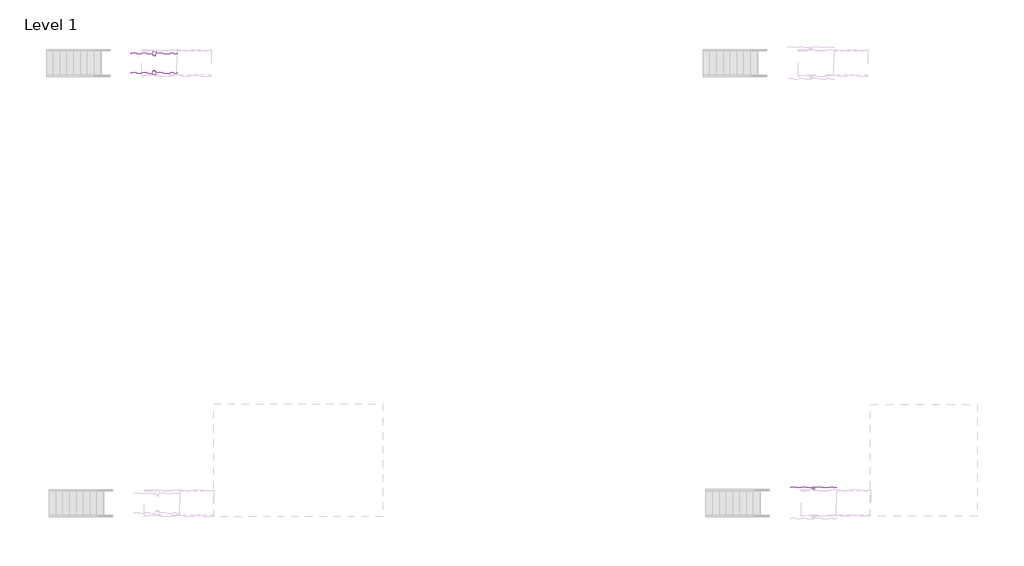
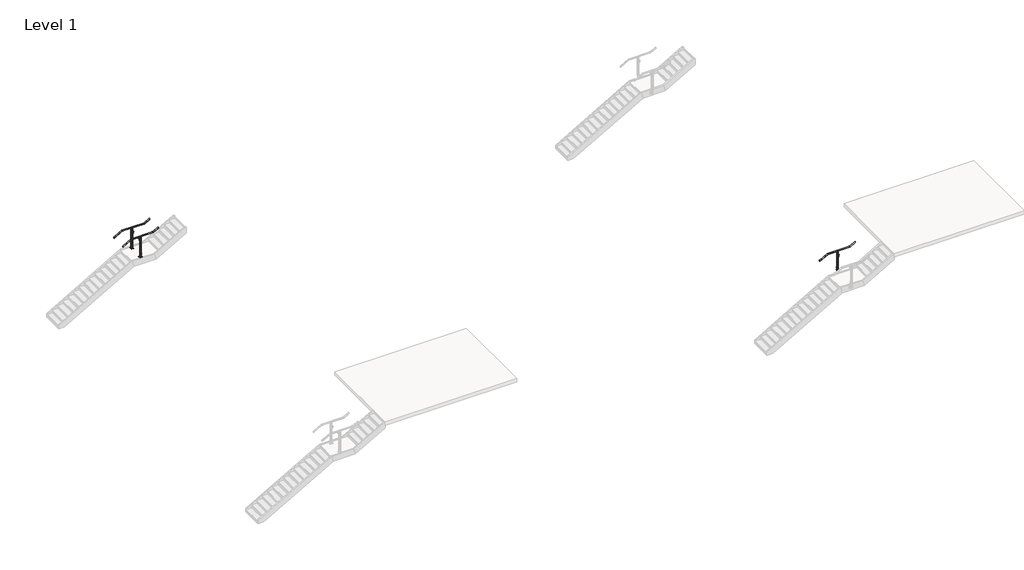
# One storey, part 33 of 36: 3 railings.
"""IFC4 building model written with IfcOpenShell, lengths in millimetres."""

from ifc_helpers import new_model, si_unit, point, frame, frame_2d, origin, place, context, project, spatial, polyline, circle_curve, ellipse_curve, trimmed, segment, composite_curve, outline, extrude, element, save
from ifc_brep_helpers import plane_surface, cylinder_surface, revolved_surface, advanced_brep

model = new_model("IFC4")

# Units and contexts
model_context = context("Model", 3, world=origin())
ifc_project = project(units=[si_unit("LENGTHUNIT", "METRE", prefix="MILLI")], contexts=[model_context])

# Site, building, storey
site = spatial("IfcSite", under=ifc_project)
building = spatial("IfcBuilding", under=site)
storey = spatial("IfcBuildingStorey", under=building, Name="Level 1", Elevation=0.0)

# Railings
placement = place(None, origin())
element("IfcRailing", 1, ObjectType="VIVA-BLADE-CableNet Infill-Panel-Floor Mounted-Stairs-Landing", at=placement, inside=storey, context=model_context, shape_type="SolidModel", body=[
    advanced_brep(
    [(136471.1523809, 32377.4530185, 3009.6740933), (136471.1523809, 32428.2530185, 3009.6740933), (136858.8977176, 32377.4530185, 3231.2428571), (136858.8977176, 32428.2530185, 3231.2428571), (137925.6977176, 32377.4530185, 3231.2428571), (137925.6977176, 32428.2530185, 3231.2428571), (138176.1273809, 32377.4530185, 3374.3455219), (138176.1273809, 32428.2530185, 3374.3455219)],
    [
        (0, 1, ellipse_curve(frame((136471.1523809, 32402.8530185, 3009.6740933), z_axis=(-1.0, 0.0, 0.0), x_axis=(0.0, 0.0, -0.9999999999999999)), 29.2544781, 25.4)),
        (1, 0, ellipse_curve(frame((136471.1523809, 32402.8530185, 3009.6740933), z_axis=(-1.0, 0.0, 0.0), x_axis=(0.0, 0.0, -0.9999999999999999)), 29.2544781, 25.4)),
        (0, 2),
        (2, 3, ellipse_curve(frame((136858.8977176, 32402.8530185, 3231.2428571), z_axis=(-0.9664996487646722, 0.0, -0.2566679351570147), x_axis=(0.25666793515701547, 0.0, -0.9664996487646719)), 26.2804027, 25.4)),
        (3, 1),
        (3, 2, ellipse_curve(frame((136858.8977176, 32402.8530185, 3231.2428571), z_axis=(-0.9664996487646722, 0.0, -0.2566679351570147), x_axis=(0.25666793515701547, 0.0, -0.9664996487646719)), 26.2804027, 25.4)),
        (2, 4),
        (4, 5, ellipse_curve(frame((137925.6977176, 32402.8530185, 3231.2428571), z_axis=(-0.9664996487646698, 0.0, -0.2566679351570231), x_axis=(-0.2566679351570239, 0.0, 0.9664996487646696)), 26.2804027, 25.4)),
        (5, 3),
        (5, 4, ellipse_curve(frame((137925.6977176, 32402.8530185, 3231.2428571), z_axis=(-0.9664996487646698, 0.0, -0.2566679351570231), x_axis=(-0.2566679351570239, 0.0, 0.9664996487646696)), 26.2804027, 25.4)),
        (6, 7, ellipse_curve(frame((138176.1273809, 32402.8530185, 3374.3455219), z_axis=(1.0, 0.0, 0.0), x_axis=(0.0, 0.0, -1.0)), 29.2544781, 25.4)),
        (7, 6, ellipse_curve(frame((138176.1273809, 32402.8530185, 3374.3455219), z_axis=(1.0, 0.0, 0.0), x_axis=(0.0, 0.0, -1.0)), 29.2544781, 25.4)),
        (4, 6),
        (7, 5),
    ],
    [
        plane_surface(frame((136471.1523809, 32402.8530185, 3038.9285714), z_axis=(-1.0, 0.0, 0.0), x_axis=(0.0, 1.0, 0.0))),
        cylinder_surface(frame((136483.7543099, 32402.8530185, 3016.8751956), z_axis=(-0.868243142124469, 0.0, -0.49613893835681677), x_axis=(0.0, 1.0, 0.0)), 25.4),
        cylinder_surface(frame((136852.1523809, 32402.8530185, 3231.2428571), z_axis=(-1.0, 0.0, 0.0), x_axis=(0.0, 1.0, 0.0)), 25.4),
        plane_surface(frame((138176.1273809, 32402.8530185, 3403.6), z_axis=(1.0, 0.0, 0.0), x_axis=(0.0, 1.0, 0.0))),
        cylinder_surface(frame((137931.5543099, 32402.8530185, 3234.5894813), z_axis=(-0.8682431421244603, 0.0, -0.4961389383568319), x_axis=(0.0, 1.0, 0.0)), 25.4),
    ],
    [
        (0, [[1, 2]]),
        (1, [[-1, 3, 4, 5]]),
        (1, [[-2, -5, 6, -3]]),
        (2, [[-4, 7, 8, 9]]),
        (2, [[-6, -9, 10, -7]]),
        (3, [[11, 12]]),
        (4, [[-8, 13, -12, 14]]),
        (4, [[-10, -14, -11, -13]]),
    ],
),
    extrude(outline(composite_curve([segment(trimmed(circle_curve(frame_2d((0.0, 7.0)), 7.0), [point((0.0, 14.0))], [point((0.0, 0.0))], False, "CARTESIAN"), True, "CONTINUOUS"), segment(trimmed(circle_curve(frame_2d((0.0, 7.0)), 7.0), [point((0.0, 0.0))], [point((0.0, 14.0))], False, "CARTESIAN"), True, "CONTINUOUS")], self_intersect=False)), frame((137323.5556311, 32488.5366409, 2975.6229503), z_axis=(0.0012555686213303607, 0.0, 0.999999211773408), x_axis=(0.999999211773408, 0.0, -0.0012555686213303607)), (0.0, 0.0, 1.0), 75.97),
    extrude(outline(composite_curve([segment(trimmed(circle_curve(frame_2d((32496.784573, 3073.569086)), 19.05), [point((32483.2549847, 3060.1581672))], [point((32510.3141612, 3060.1581672))], True, "CARTESIAN"), True, "CONTINUOUS"), segment(polyline([(32510.3141612, 3060.1581672), (32511.3405508, 3059.1407802)]), True, "CONTINUOUS"), segment(trimmed(circle_curve(frame_2d((32510.284573, 3058.0754583)), 1.5), [point((32511.3405508, 3059.1407802))], [point((32511.2699744, 3056.9445366))], False, "CARTESIAN"), True, "CONTINUOUS"), segment(trimmed(circle_curve(frame_2d((32496.784573, 3073.569086)), 22.05), [point((32511.2699744, 3056.9445366))], [point((32482.2991715, 3056.9445366))], False, "CARTESIAN"), True, "CONTINUOUS"), segment(trimmed(circle_curve(frame_2d((32483.284573, 3058.0754583)), 1.5), [point((32482.2991715, 3056.9445366))], [point((32482.2285951, 3059.1407802))], False, "CARTESIAN"), True, "CONTINUOUS"), segment(polyline([(32482.2285951, 3059.1407802), (32483.2549847, 3060.1581672)]), True, "CONTINUOUS")], self_intersect=False)), frame((137287.2042463, 0.0, 0.0), z_axis=(1.0, 0.0, 0.0), x_axis=(0.0, 1.0, 0.0)), (0.0, 0.0, 1.0), 74.5229187),
    extrude(outline(composite_curve([segment(trimmed(circle_curve(frame_2d((3002.4995463, 137323.6155346)), 12.5), [point((3002.4995463, 137311.1155346))], [point((3002.4995463, 137336.1155346))], False, "CARTESIAN"), True, "CONTINUOUS"), segment(trimmed(circle_curve(frame_2d((3002.4995463, 137323.6155346)), 12.5), [point((3002.4995463, 137336.1155346))], [point((3002.4995463, 137311.1155346))], False, "CARTESIAN"), True, "CONTINUOUS")], self_intersect=False)), frame((0.0, 32428.2528152, 0.0), z_axis=(0.0, 1.0, 0.0), x_axis=(0.0, 0.0, 1.0)), (0.0, 0.0, 1.0), 82.061346),
    extrude(outline(polyline([(137350.7147166, 32434.6028152), (137350.7147166, 32428.2528152), (137296.5873166, 32428.2528152), (137296.5873166, 32434.6028152), (137350.7147166, 32434.6028152)])), frame((0.0, 0.0, 2975.5558249), z_axis=(0.0, 0.0, 1.0), x_axis=(1.0, 0.0, 0.0)), (0.0, 0.0, 1.0), 54.1734375),
    advanced_brep(
    [(137368.8772809, 32415.6131421, 3209.2396226), (137368.8772809, 32390.7410776, 3209.0963856), (137368.8772809, 32387.9321473, 3204.2696317), (137368.8772809, 32419.4490396, 3204.8503901), (137278.4024809, 32415.6131421, 3209.2396226), (137278.4024809, 32419.4490396, 3204.8503901), (137278.4024809, 32387.8183539, 3204.3322535), (137278.4024809, 32390.6541055, 3209.1447018)],
    [
        (0, 1, circle_curve(frame((137368.8772809, 32403.0493392, 3231.3544469), z_axis=(-1.0, 0.0, 0.0), x_axis=(0.0, 1.0, 0.0)), 25.4345159)),
        (1, 2, circle_curve(frame((137368.8772809, 32389.4094524, 3206.642217), z_axis=(1.0, 0.0, 0.0), x_axis=(0.0, 1.0, 0.0)), 2.7949225)),
        (2, 3, circle_curve(frame((137368.8772809, 32403.1828023, 3232.1170736), z_axis=(1.0, 0.0, 0.0), x_axis=(0.0, 1.0, 0.0)), 31.75)),
        (3, 0, circle_curve(frame((137368.8772809, 32417.1606998, 3206.7213092), z_axis=(1.0, 0.0, 0.0), x_axis=(0.0, 1.0, 0.0)), 2.9558141)),
        (4, 5, circle_curve(frame((137278.4024809, 32417.1606998, 3206.7213092), z_axis=(-1.0, 0.0, 0.0), x_axis=(0.0, 1.0, 0.0)), 2.9558141)),
        (5, 6, circle_curve(frame((137278.4024809, 32403.1828023, 3232.1170736), z_axis=(-1.0, 0.0, 0.0), x_axis=(0.0, 1.0, 0.0)), 31.75)),
        (6, 7, circle_curve(frame((137278.4024809, 32389.4094524, 3206.642217), z_axis=(-1.0, 0.0, 0.0), x_axis=(0.0, 1.0, 0.0)), 2.7949225)),
        (7, 4, circle_curve(frame((137278.4024809, 32403.0493392, 3231.3544469), z_axis=(1.0, 0.0, 0.0), x_axis=(0.0, 1.0, 0.0)), 25.4345159)),
        (0, 4),
        (7, 1),
        (6, 2),
        (5, 3),
    ],
    [
        plane_surface(frame((137368.8772809, 32428.4838551, 3231.3544469), z_axis=(1.0, 0.0, 0.0), x_axis=(0.0, 0.0, -1.0))),
        plane_surface(frame((137278.4024809, 32428.4838551, 3231.3544469), z_axis=(-1.0, 0.0, 0.0), x_axis=(0.0, 0.0, 1.0))),
        revolved_surface(polyline([(137278.4024809, 32428.4838551, 3231.3544469), (137368.8772809, 32428.4838551, 3231.3544469)]), (137278.4024809, 32403.0493392, 3231.3544469), (-1.0, 0.0, 0.0)),
        cylinder_surface(frame((137278.4024809, 32389.4094524, 3206.642217), z_axis=(1.0, 0.0, 0.0), x_axis=(0.0, 1.0, 0.0)), 2.7949225),
        cylinder_surface(frame((137278.4024809, 32403.1828023, 3232.1170736), z_axis=(1.0, 0.0, 0.0), x_axis=(0.0, 1.0, 0.0)), 31.75),
        cylinder_surface(frame((137278.4024809, 32417.1606998, 3206.7213092), z_axis=(1.0, 0.0, 0.0), x_axis=(0.0, 1.0, 0.0)), 2.9558141),
    ],
    [
        (0, [[1, 2, 3, 4]]),
        (1, [[5, 6, 7, 8]]),
        (2, [[-1, 9, -8, 10]]),
        (3, [[-2, -10, -7, 11]]),
        (4, [[-3, -11, -6, 12]]),
        (5, [[-4, -12, -5, -9]]),
    ],
),
    advanced_brep(
    [(137336.3398809, 32405.3930185, 3191.5553571), (137310.9398809, 32405.3930185, 3191.5553571), (137296.571966, 32405.3930185, 3205.923272), (137350.7077958, 32405.3930185, 3205.923272), (137336.3398809, 32400.3130185, 3191.5553571), (137350.7077958, 32400.3130185, 3205.923272), (137296.571966, 32400.3130185, 3205.923272), (137310.9398809, 32400.3130185, 3191.5553571)],
    [
        (0, 1),
        (1, 2, circle_curve(frame((137296.571966, 32405.3930185, 3191.5553571), z_axis=(0.0, -1.0, 0.0), x_axis=(-1.0, 0.0, 0.0)), 14.3679149)),
        (2, 3),
        (3, 0, circle_curve(frame((137350.7077958, 32405.3930185, 3191.5553571), z_axis=(0.0, -1.0, 0.0), x_axis=(-1.0, 0.0, 0.0)), 14.3679149)),
        (4, 5, circle_curve(frame((137350.7077958, 32400.3130185, 3191.5553571), z_axis=(0.0, 1.0, 0.0), x_axis=(-1.0, 0.0, 0.0)), 14.3679149)),
        (5, 6),
        (6, 7, circle_curve(frame((137296.571966, 32400.3130185, 3191.5553571), z_axis=(0.0, 1.0, 0.0), x_axis=(-1.0, 0.0, 0.0)), 14.3679149)),
        (7, 4),
        (0, 4),
        (7, 1),
        (6, 2),
        (5, 3),
    ],
    [
        plane_surface(frame((137310.9398809, 32405.3930185, 3191.5553571), z_axis=(0.0, 1.0, 0.0), x_axis=(-1.0, 0.0, 0.0))),
        plane_surface(frame((137310.9398809, 32400.3130185, 3191.5553571), z_axis=(0.0, -1.0, 0.0), x_axis=(1.0, 0.0, 0.0))),
        plane_surface(frame((137336.3398809, 32405.3930185, 3191.5553571), z_axis=(0.0, 0.0, -1.0), x_axis=(0.0, -1.0, 0.0))),
        revolved_surface(polyline([(137282.20405109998, 32400.3130185, 3191.5553571), (137282.20405109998, 32405.3930185, 3191.5553571)]), (137296.571966, 32400.3130185, 3191.5553571), (0.0, -1.0, 0.0)),
        plane_surface(frame((137296.571966, 32405.3930185, 3205.923272), z_axis=(0.0, 0.0, 1.0), x_axis=(0.0, -1.0, 0.0))),
        revolved_surface(polyline([(137336.3398809, 32400.3130185, 3191.5553571), (137336.3398809, 32405.3930185, 3191.5553571)]), (137350.7077958, 32400.3130185, 3191.5553571), (0.0, -1.0, 0.0)),
    ],
    [
        (0, [[1, 2, 3, 4]]),
        (1, [[5, 6, 7, 8]]),
        (2, [[-1, 9, -8, 10]]),
        (3, [[-2, -10, -7, 11]]),
        (4, [[-3, -11, -6, 12]]),
        (5, [[-4, -12, -5, -9]]),
    ],
),
    extrude(outline(polyline([(137387.1279441, 32332.4823328), (137260.1279441, 32332.4823328), (137260.1279441, 32466.3518244), (137387.1279441, 32466.3518244), (137387.1279441, 32332.4823328)]), holes=[composite_curve([segment(trimmed(circle_curve(frame_2d((137279.1779441, 32358.4042126)), 4.7625), [point((137279.1779441, 32353.6417126))], [point((137279.1779441, 32363.1667126))], True, "CARTESIAN"), True, "CONTINUOUS"), segment(trimmed(circle_curve(frame_2d((137279.1779441, 32358.4042126)), 4.7625), [point((137279.1779441, 32363.1667126))], [point((137279.1779441, 32353.6417126))], True, "CARTESIAN"), True, "CONTINUOUS")], self_intersect=False), composite_curve([segment(trimmed(circle_curve(frame_2d((137279.1779441, 32447.3018244)), 4.7625), [point((137279.1779441, 32442.5393244))], [point((137279.1779441, 32452.0643244))], True, "CARTESIAN"), True, "CONTINUOUS"), segment(trimmed(circle_curve(frame_2d((137279.1779441, 32447.3018244)), 4.7625), [point((137279.1779441, 32452.0643244))], [point((137279.1779441, 32442.5393244))], True, "CARTESIAN"), True, "CONTINUOUS")], self_intersect=False), composite_curve([segment(trimmed(circle_curve(frame_2d((137368.0779441, 32447.3018244)), 4.7625), [point((137368.0779441, 32442.5393244))], [point((137368.0779441, 32452.0643244))], True, "CARTESIAN"), True, "CONTINUOUS"), segment(trimmed(circle_curve(frame_2d((137368.0779441, 32447.3018244)), 4.7625), [point((137368.0779441, 32452.0643244))], [point((137368.0779441, 32442.5393244))], True, "CARTESIAN"), True, "CONTINUOUS")], self_intersect=False), composite_curve([segment(trimmed(circle_curve(frame_2d((137368.0779441, 32358.4042126)), 4.7625), [point((137368.0779441, 32353.6417126))], [point((137368.0779441, 32363.1667126))], True, "CARTESIAN"), True, "CONTINUOUS"), segment(trimmed(circle_curve(frame_2d((137368.0779441, 32358.4042126)), 4.7625), [point((137368.0779441, 32363.1667126))], [point((137368.0779441, 32353.6417126))], True, "CARTESIAN"), True, "CONTINUOUS")], self_intersect=False)]), frame((0.0, 0.0, 2177.1428571), z_axis=(0.0, 0.0, 1.0), x_axis=(1.0, 0.0, 0.0)), (0.0, 0.0, 1.0), 9.525),
    extrude(outline(polyline([(137296.5650452, 32428.2528152), (137304.5898809, 32428.2528152), (137304.5898809, 32377.4504906), (137296.5650452, 32377.4504906), (137296.5650452, 32428.2528152)])), frame((0.0, 0.0, 2237.6440557), z_axis=(0.0, 0.0, 1.0), x_axis=(1.0, 0.0, 0.0)), (0.0, 0.0, 1.0), 936.4488015),
    extrude(outline(polyline([(137331.5688822, 32428.2524163), (137331.5688822, 32377.452424), (137315.6328917, 32377.452424), (137315.6328917, 32428.2524163), (137331.5688822, 32428.2524163)])), frame((0.0, 0.0, 2186.6678571), z_axis=(0.0, 0.0, 1.0), x_axis=(1.0, 0.0, 0.0)), (0.0, 0.0, 1.0), 231.775),
    extrude(outline(composite_curve([segment(trimmed(circle_curve(frame_2d((32390.1505416, 3163.1845501)), 8.89), [point((32381.2605416, 3163.1845501))], [point((32399.0405416, 3163.1845501))], False, "CARTESIAN"), True, "CONTINUOUS"), segment(trimmed(circle_curve(frame_2d((32390.1505416, 3163.1845501)), 8.89), [point((32399.0405416, 3163.1845501))], [point((32381.2605416, 3163.1845501))], False, "CARTESIAN"), True, "CONTINUOUS")], self_intersect=False)), frame((137291.8898809, 0.0, 0.0), z_axis=(1.0, 0.0, 0.0), x_axis=(0.0, 1.0, 0.0)), (0.0, 0.0, 1.0), 63.4880631),
    extrude(outline(composite_curve([segment(trimmed(circle_curve(frame_2d((32415.5504395, 3163.1845501)), 8.89), [point((32406.6604395, 3163.1845501))], [point((32424.4404395, 3163.1845501))], False, "CARTESIAN"), True, "CONTINUOUS"), segment(trimmed(circle_curve(frame_2d((32415.5504395, 3163.1845501)), 8.89), [point((32424.4404395, 3163.1845501))], [point((32406.6604395, 3163.1845501))], False, "CARTESIAN"), True, "CONTINUOUS")], self_intersect=False)), frame((137291.8898809, 0.0, 0.0), z_axis=(1.0, 0.0, 0.0), x_axis=(0.0, 1.0, 0.0)), (0.0, 0.0, 1.0), 63.4880631),
    extrude(outline(polyline([(3151.8551571, 137304.5898809), (3151.8551571, 137342.6898809), (3185.2053571, 137342.6898809), (3191.5553571, 137336.3398809), (3191.5553571, 137310.9398809), (3185.2053571, 137304.5898809), (3151.8551571, 137304.5898809)])), frame((0.0, 32377.4504906, 0.0), z_axis=(0.0, 1.0, 0.0), x_axis=(0.0, 0.0, 1.0)), (0.0, 0.0, 1.0), 50.8025279),
    extrude(outline(composite_curve([segment(trimmed(circle_curve(frame_2d((32402.8532242, 2385.1476493)), 19.05), [point((32383.8032242, 2385.1476493))], [point((32421.9032242, 2385.1476493))], False, "CARTESIAN"), True, "CONTINUOUS"), segment(trimmed(circle_curve(frame_2d((32402.8532242, 2385.1476493)), 19.05), [point((32421.9032242, 2385.1476493))], [point((32383.8032242, 2385.1476493))], False, "CARTESIAN"), True, "CONTINUOUS")], self_intersect=False)), frame((137287.1908809, 0.0, 0.0), z_axis=(1.0, 0.0, 0.0), x_axis=(0.0, 1.0, 0.0)), (0.0, 0.0, 1.0), 72.8981531),
    extrude(outline(composite_curve([segment(trimmed(circle_curve(frame_2d((32402.8532242, 2296.2476493)), 19.05), [point((32383.8032242, 2296.2476493))], [point((32421.9032242, 2296.2476493))], False, "CARTESIAN"), True, "CONTINUOUS"), segment(trimmed(circle_curve(frame_2d((32402.8532242, 2296.2476493)), 19.05), [point((32421.9032242, 2296.2476493))], [point((32383.8032242, 2296.2476493))], False, "CARTESIAN"), True, "CONTINUOUS")], self_intersect=False)), frame((137287.1908809, 0.0, 0.0), z_axis=(1.0, 0.0, 0.0), x_axis=(0.0, 1.0, 0.0)), (0.0, 0.0, 1.0), 72.8981531),
    extrude(outline(polyline([(137342.6898429, 32428.2528152), (137350.6908429, 32428.2528152), (137350.6908429, 32377.4504906), (137342.6898429, 32377.4504906), (137342.6898429, 32428.2528152)])), frame((0.0, 0.0, 2237.6440557), z_axis=(0.0, 0.0, 1.0), x_axis=(1.0, 0.0, 0.0)), (0.0, 0.0, 1.0), 936.4488015),
])
element("IfcRailing", 2, ObjectType="VIVA-BLADE-CableNet Infill-Panel-Floor Mounted-Stairs-Landing", at=placement, inside=storey, context=model_context, shape_type="SolidModel", body=[
    advanced_brep(
    [(136471.1523809, 33114.0530185, 3009.6740933), (136471.1523809, 33164.8530185, 3009.6740933), (136858.8977176, 33114.0530185, 3231.2428571), (136858.8977176, 33164.8530185, 3231.2428571), (137925.6977176, 33114.0530185, 3231.2428571), (137925.6977176, 33164.8530185, 3231.2428571), (138176.1273809, 33114.0530185, 3374.3455219), (138176.1273809, 33164.8530185, 3374.3455219)],
    [
        (0, 1, ellipse_curve(frame((136471.1523809, 33139.4530185, 3009.6740933), z_axis=(-1.0, 0.0, 0.0), x_axis=(0.0, 0.0, -0.9999999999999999)), 29.2544781, 25.4)),
        (1, 0, ellipse_curve(frame((136471.1523809, 33139.4530185, 3009.6740933), z_axis=(-1.0, 0.0, 0.0), x_axis=(0.0, 0.0, -0.9999999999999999)), 29.2544781, 25.4)),
        (0, 2),
        (2, 3, ellipse_curve(frame((136858.8977176, 33139.4530185, 3231.2428571), z_axis=(-0.9664996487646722, 0.0, -0.2566679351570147), x_axis=(0.25666793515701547, 0.0, -0.9664996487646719)), 26.2804027, 25.4)),
        (3, 1),
        (3, 2, ellipse_curve(frame((136858.8977176, 33139.4530185, 3231.2428571), z_axis=(-0.9664996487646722, 0.0, -0.2566679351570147), x_axis=(0.25666793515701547, 0.0, -0.9664996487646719)), 26.2804027, 25.4)),
        (2, 4),
        (4, 5, ellipse_curve(frame((137925.6977176, 33139.4530185, 3231.2428571), z_axis=(-0.9664996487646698, 0.0, -0.2566679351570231), x_axis=(-0.2566679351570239, 0.0, 0.9664996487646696)), 26.2804027, 25.4)),
        (5, 3),
        (5, 4, ellipse_curve(frame((137925.6977176, 33139.4530185, 3231.2428571), z_axis=(-0.9664996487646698, 0.0, -0.2566679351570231), x_axis=(-0.2566679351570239, 0.0, 0.9664996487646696)), 26.2804027, 25.4)),
        (6, 7, ellipse_curve(frame((138176.1273809, 33139.4530185, 3374.3455219), z_axis=(1.0, 0.0, 0.0), x_axis=(0.0, 0.0, -1.0)), 29.2544781, 25.4)),
        (7, 6, ellipse_curve(frame((138176.1273809, 33139.4530185, 3374.3455219), z_axis=(1.0, 0.0, 0.0), x_axis=(0.0, 0.0, -1.0)), 29.2544781, 25.4)),
        (4, 6),
        (7, 5),
    ],
    [
        plane_surface(frame((136471.1523809, 33139.4530185, 3038.9285714), z_axis=(-1.0, 0.0, 0.0), x_axis=(0.0, 1.0, 0.0))),
        cylinder_surface(frame((136483.7543099, 33139.4530185, 3016.8751956), z_axis=(-0.868243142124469, 0.0, -0.49613893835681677), x_axis=(0.0, 1.0, 0.0)), 25.4),
        cylinder_surface(frame((136852.1523809, 33139.4530185, 3231.2428571), z_axis=(-1.0, 0.0, 0.0), x_axis=(0.0, 1.0, 0.0)), 25.4),
        plane_surface(frame((138176.1273809, 33139.4530185, 3403.6), z_axis=(1.0, 0.0, 0.0), x_axis=(0.0, 1.0, 0.0))),
        cylinder_surface(frame((137931.5543099, 33139.4530185, 3234.5894813), z_axis=(-0.8682431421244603, 0.0, -0.4961389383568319), x_axis=(0.0, 1.0, 0.0)), 25.4),
    ],
    [
        (0, [[1, 2]]),
        (1, [[-1, 3, 4, 5]]),
        (1, [[-2, -5, 6, -3]]),
        (2, [[-4, 7, 8, 9]]),
        (2, [[-6, -9, 10, -7]]),
        (3, [[11, 12]]),
        (4, [[-8, 13, -12, 14]]),
        (4, [[-10, -14, -11, -13]]),
    ],
),
    extrude(outline(composite_curve([segment(trimmed(circle_curve(frame_2d((0.0, -7.0)), 7.0), [point((0.0, -14.0))], [point((0.0, 0.0))], False, "CARTESIAN"), True, "CONTINUOUS"), segment(trimmed(circle_curve(frame_2d((0.0, -7.0)), 7.0), [point((0.0, 0.0))], [point((0.0, -14.0))], False, "CARTESIAN"), True, "CONTINUOUS")], self_intersect=False)), frame((137323.5556311, 33053.7693961, 2975.6229503), z_axis=(0.0012555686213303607, 0.0, 0.999999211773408), x_axis=(0.999999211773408, 0.0, -0.0012555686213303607)), (0.0, 0.0, 1.0), 75.97),
    extrude(outline(composite_curve([segment(polyline([(33059.0510523, 3060.1581672), (33060.0774419, 3059.1407802)]), True, "CONTINUOUS"), segment(trimmed(circle_curve(frame_2d((33059.021464, 3058.0754583)), 1.5), [point((33060.0774419, 3059.1407802))], [point((33060.0068655, 3056.9445366))], False, "CARTESIAN"), True, "CONTINUOUS"), segment(trimmed(circle_curve(frame_2d((33045.521464, 3073.569086)), 22.05), [point((33060.0068655, 3056.9445366))], [point((33031.0360626, 3056.9445366))], False, "CARTESIAN"), True, "CONTINUOUS"), segment(trimmed(circle_curve(frame_2d((33032.021464, 3058.0754583)), 1.5), [point((33031.0360626, 3056.9445366))], [point((33030.9654862, 3059.1407802))], False, "CARTESIAN"), True, "CONTINUOUS"), segment(polyline([(33030.9654862, 3059.1407802), (33031.9918758, 3060.1581672)]), True, "CONTINUOUS"), segment(trimmed(circle_curve(frame_2d((33045.521464, 3073.569086)), 19.05), [point((33031.9918758, 3060.1581672))], [point((33059.0510523, 3060.1581672))], True, "CARTESIAN"), True, "CONTINUOUS")], self_intersect=False)), frame((137287.2042463, 0.0, 0.0), z_axis=(1.0, 0.0, 0.0), x_axis=(0.0, 1.0, 0.0)), (0.0, 0.0, 1.0), 74.5229187),
    extrude(outline(composite_curve([segment(trimmed(circle_curve(frame_2d((3002.4995463, 137323.6155346)), 12.5), [point((3002.4995463, 137311.1155346))], [point((3002.4995463, 137336.1155346))], False, "CARTESIAN"), True, "CONTINUOUS"), segment(trimmed(circle_curve(frame_2d((3002.4995463, 137323.6155346)), 12.5), [point((3002.4995463, 137336.1155346))], [point((3002.4995463, 137311.1155346))], False, "CARTESIAN"), True, "CONTINUOUS")], self_intersect=False)), frame((0.0, 33031.9918758, 0.0), z_axis=(0.0, 1.0, 0.0), x_axis=(0.0, 0.0, 1.0)), (0.0, 0.0, 1.0), 82.061346),
    extrude(outline(polyline([(137350.7147166, 33107.7032218), (137296.5873166, 33107.7032218), (137296.5873166, 33114.0532218), (137350.7147166, 33114.0532218), (137350.7147166, 33107.7032218)])), frame((0.0, 0.0, 2975.5558249), z_axis=(0.0, 0.0, 1.0), x_axis=(1.0, 0.0, 0.0)), (0.0, 0.0, 1.0), 54.1734375),
    advanced_brep(
    [(137368.8772809, 33126.6928949, 3209.2396226), (137368.8772809, 33122.8569975, 3204.8503901), (137368.8772809, 33154.3738897, 3204.2696317), (137368.8772809, 33151.5649594, 3209.0963856), (137278.4024809, 33126.6928949, 3209.2396226), (137278.4024809, 33151.6519315, 3209.1447018), (137278.4024809, 33154.4876831, 3204.3322535), (137278.4024809, 33122.8569975, 3204.8503901)],
    [
        (0, 1, circle_curve(frame((137368.8772809, 33125.1453372, 3206.7213092), z_axis=(1.0, 0.0, 0.0), x_axis=(0.0, -1.0, 0.0)), 2.9558141)),
        (1, 2, circle_curve(frame((137368.8772809, 33139.1232347, 3232.1170736), z_axis=(1.0, 0.0, 0.0), x_axis=(0.0, -1.0, 0.0)), 31.75)),
        (2, 3, circle_curve(frame((137368.8772809, 33152.8965846, 3206.642217), z_axis=(1.0, 0.0, 0.0), x_axis=(0.0, -1.0, 0.0)), 2.7949225)),
        (3, 0, circle_curve(frame((137368.8772809, 33139.2566978, 3231.3544469), z_axis=(-1.0, 0.0, 0.0), x_axis=(0.0, -1.0, 0.0)), 25.4345159)),
        (4, 5, circle_curve(frame((137278.4024809, 33139.2566978, 3231.3544469), z_axis=(1.0, 0.0, 0.0), x_axis=(0.0, -1.0, 0.0)), 25.4345159)),
        (5, 6, circle_curve(frame((137278.4024809, 33152.8965846, 3206.642217), z_axis=(-1.0, 0.0, 0.0), x_axis=(0.0, -1.0, 0.0)), 2.7949225)),
        (6, 7, circle_curve(frame((137278.4024809, 33139.1232347, 3232.1170736), z_axis=(-1.0, 0.0, 0.0), x_axis=(0.0, -1.0, 0.0)), 31.75)),
        (7, 4, circle_curve(frame((137278.4024809, 33125.1453372, 3206.7213092), z_axis=(-1.0, 0.0, 0.0), x_axis=(0.0, -1.0, 0.0)), 2.9558141)),
        (3, 5),
        (4, 0),
        (2, 6),
        (1, 7),
    ],
    [
        plane_surface(frame((137368.8772809, 33113.8221819, 3231.3544469), z_axis=(1.0, 0.0, 0.0), x_axis=(0.0, 0.0, -1.0))),
        plane_surface(frame((137278.4024809, 33113.8221819, 3231.3544469), z_axis=(-1.0, 0.0, 0.0), x_axis=(0.0, 0.0, 1.0))),
        revolved_surface(polyline([(137278.4024809, 33113.8221819, 3231.3544469), (137368.8772809, 33113.8221819, 3231.3544469)]), (137278.4024809, 33139.2566978, 3231.3544469), (-1.0, 0.0, 0.0)),
        cylinder_surface(frame((137278.4024809, 33152.8965846, 3206.642217), z_axis=(1.0, 0.0, 0.0), x_axis=(0.0, -1.0, 0.0)), 2.7949225),
        cylinder_surface(frame((137278.4024809, 33139.1232347, 3232.1170736), z_axis=(1.0, 0.0, 0.0), x_axis=(0.0, -1.0, 0.0)), 31.75),
        cylinder_surface(frame((137278.4024809, 33125.1453372, 3206.7213092), z_axis=(1.0, 0.0, 0.0), x_axis=(0.0, -1.0, 0.0)), 2.9558141),
    ],
    [
        (0, [[1, 2, 3, 4]]),
        (1, [[5, 6, 7, 8]]),
        (2, [[9, -5, 10, -4]]),
        (3, [[11, -6, -9, -3]]),
        (4, [[12, -7, -11, -2]]),
        (5, [[-10, -8, -12, -1]]),
    ],
),
    advanced_brep(
    [(137336.3398809, 33136.9130185, 3191.5553571), (137350.7077958, 33136.9130185, 3205.923272), (137296.571966, 33136.9130185, 3205.923272), (137310.9398809, 33136.9130185, 3191.5553571), (137336.3398809, 33141.9930185, 3191.5553571), (137310.9398809, 33141.9930185, 3191.5553571), (137296.571966, 33141.9930185, 3205.923272), (137350.7077958, 33141.9930185, 3205.923272)],
    [
        (0, 1, circle_curve(frame((137350.7077958, 33136.9130185, 3191.5553571), z_axis=(0.0, 1.0, 0.0), x_axis=(-1.0, 0.0, 0.0)), 14.3679149)),
        (1, 2),
        (2, 3, circle_curve(frame((137296.571966, 33136.9130185, 3191.5553571), z_axis=(0.0, 1.0, 0.0), x_axis=(-1.0, 0.0, 0.0)), 14.3679149)),
        (3, 0),
        (4, 5),
        (5, 6, circle_curve(frame((137296.571966, 33141.9930185, 3191.5553571), z_axis=(0.0, -1.0, 0.0), x_axis=(-1.0, 0.0, 0.0)), 14.3679149)),
        (6, 7),
        (7, 4, circle_curve(frame((137350.7077958, 33141.9930185, 3191.5553571), z_axis=(0.0, -1.0, 0.0), x_axis=(-1.0, 0.0, 0.0)), 14.3679149)),
        (3, 5),
        (4, 0),
        (2, 6),
        (1, 7),
    ],
    [
        plane_surface(frame((137310.9398809, 33136.9130185, 3191.5553571), z_axis=(0.0, -1.0, 0.0), x_axis=(-1.0, 0.0, 0.0))),
        plane_surface(frame((137310.9398809, 33141.9930185, 3191.5553571), z_axis=(0.0, 1.0, 0.0), x_axis=(1.0, 0.0, 0.0))),
        plane_surface(frame((137336.3398809, 33136.9130185, 3191.5553571), z_axis=(0.0, 0.0, -1.0), x_axis=(0.0, 1.0, 0.0))),
        revolved_surface(polyline([(137282.20405109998, 33141.9930185, 3191.5553571), (137282.20405109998, 33136.9130185, 3191.5553571)]), (137296.571966, 33141.9930185, 3191.5553571), (0.0, 1.0, 0.0)),
        plane_surface(frame((137296.571966, 33136.9130185, 3205.923272), z_axis=(0.0, 0.0, 1.0), x_axis=(0.0, 1.0, 0.0))),
        revolved_surface(polyline([(137336.3398809, 33141.9930185, 3191.5553571), (137336.3398809, 33136.9130185, 3191.5553571)]), (137350.7077958, 33141.9930185, 3191.5553571), (0.0, 1.0, 0.0)),
    ],
    [
        (0, [[1, 2, 3, 4]]),
        (1, [[5, 6, 7, 8]]),
        (2, [[9, -5, 10, -4]]),
        (3, [[11, -6, -9, -3]]),
        (4, [[12, -7, -11, -2]]),
        (5, [[-10, -8, -12, -1]]),
    ],
),
    extrude(outline(polyline([(137387.1279441, 33209.8237042), (137387.1279441, 33075.9542126), (137260.1279441, 33075.9542126), (137260.1279441, 33209.8237042), (137387.1279441, 33209.8237042)]), holes=[composite_curve([segment(trimmed(circle_curve(frame_2d((137279.1779441, 33183.9018244)), 4.7625), [point((137279.1779441, 33188.6643244))], [point((137279.1779441, 33179.1393244))], True, "CARTESIAN"), True, "CONTINUOUS"), segment(trimmed(circle_curve(frame_2d((137279.1779441, 33183.9018244)), 4.7625), [point((137279.1779441, 33179.1393244))], [point((137279.1779441, 33188.6643244))], True, "CARTESIAN"), True, "CONTINUOUS")], self_intersect=False), composite_curve([segment(trimmed(circle_curve(frame_2d((137279.1779441, 33095.0042126)), 4.7625), [point((137279.1779441, 33099.7667126))], [point((137279.1779441, 33090.2417126))], True, "CARTESIAN"), True, "CONTINUOUS"), segment(trimmed(circle_curve(frame_2d((137279.1779441, 33095.0042126)), 4.7625), [point((137279.1779441, 33090.2417126))], [point((137279.1779441, 33099.7667126))], True, "CARTESIAN"), True, "CONTINUOUS")], self_intersect=False), composite_curve([segment(trimmed(circle_curve(frame_2d((137368.0779441, 33095.0042126)), 4.7625), [point((137368.0779441, 33099.7667126))], [point((137368.0779441, 33090.2417126))], True, "CARTESIAN"), True, "CONTINUOUS"), segment(trimmed(circle_curve(frame_2d((137368.0779441, 33095.0042126)), 4.7625), [point((137368.0779441, 33090.2417126))], [point((137368.0779441, 33099.7667126))], True, "CARTESIAN"), True, "CONTINUOUS")], self_intersect=False), composite_curve([segment(trimmed(circle_curve(frame_2d((137368.0779441, 33183.9018244)), 4.7625), [point((137368.0779441, 33188.6643244))], [point((137368.0779441, 33179.1393244))], True, "CARTESIAN"), True, "CONTINUOUS"), segment(trimmed(circle_curve(frame_2d((137368.0779441, 33183.9018244)), 4.7625), [point((137368.0779441, 33179.1393244))], [point((137368.0779441, 33188.6643244))], True, "CARTESIAN"), True, "CONTINUOUS")], self_intersect=False)]), frame((0.0, 0.0, 2177.1428571), z_axis=(0.0, 0.0, 1.0), x_axis=(1.0, 0.0, 0.0)), (0.0, 0.0, 1.0), 9.525),
    extrude(outline(polyline([(137296.5650452, 33114.0532218), (137296.5650452, 33164.8555464), (137304.5898809, 33164.8555464), (137304.5898809, 33114.0532218), (137296.5650452, 33114.0532218)])), frame((0.0, 0.0, 2237.6440557), z_axis=(0.0, 0.0, 1.0), x_axis=(1.0, 0.0, 0.0)), (0.0, 0.0, 1.0), 936.4488015),
    extrude(outline(polyline([(137331.5688822, 33114.0536207), (137315.6328917, 33114.0536207), (137315.6328917, 33164.853613), (137331.5688822, 33164.853613), (137331.5688822, 33114.0536207)])), frame((0.0, 0.0, 2186.6678571), z_axis=(0.0, 0.0, 1.0), x_axis=(1.0, 0.0, 0.0)), (0.0, 0.0, 1.0), 231.775),
    extrude(outline(composite_curve([segment(trimmed(circle_curve(frame_2d((33152.1554954, 3163.1845501)), 8.89), [point((33161.0454954, 3163.1845501))], [point((33143.2654954, 3163.1845501))], False, "CARTESIAN"), True, "CONTINUOUS"), segment(trimmed(circle_curve(frame_2d((33152.1554954, 3163.1845501)), 8.89), [point((33143.2654954, 3163.1845501))], [point((33161.0454954, 3163.1845501))], False, "CARTESIAN"), True, "CONTINUOUS")], self_intersect=False)), frame((137291.8898809, 0.0, 0.0), z_axis=(1.0, 0.0, 0.0), x_axis=(0.0, 1.0, 0.0)), (0.0, 0.0, 1.0), 63.4880631),
    extrude(outline(composite_curve([segment(trimmed(circle_curve(frame_2d((33126.7555975, 3163.1845501)), 8.89), [point((33135.6455975, 3163.1845501))], [point((33117.8655975, 3163.1845501))], False, "CARTESIAN"), True, "CONTINUOUS"), segment(trimmed(circle_curve(frame_2d((33126.7555975, 3163.1845501)), 8.89), [point((33117.8655975, 3163.1845501))], [point((33135.6455975, 3163.1845501))], False, "CARTESIAN"), True, "CONTINUOUS")], self_intersect=False)), frame((137291.8898809, 0.0, 0.0), z_axis=(1.0, 0.0, 0.0), x_axis=(0.0, 1.0, 0.0)), (0.0, 0.0, 1.0), 63.4880631),
    extrude(outline(polyline([(3151.8551571, 137304.5898809), (3151.8551571, 137342.6898809), (3185.2053571, 137342.6898809), (3191.5553571, 137336.3398809), (3191.5553571, 137310.9398809), (3185.2053571, 137304.5898809), (3151.8551571, 137304.5898809)])), frame((0.0, 33114.0530185, 0.0), z_axis=(0.0, 1.0, 0.0), x_axis=(0.0, 0.0, 1.0)), (0.0, 0.0, 1.0), 50.8025279),
    extrude(outline(composite_curve([segment(trimmed(circle_curve(frame_2d((33139.4528128, 2385.1476493)), 19.05), [point((33158.5028128, 2385.1476493))], [point((33120.4028128, 2385.1476493))], False, "CARTESIAN"), True, "CONTINUOUS"), segment(trimmed(circle_curve(frame_2d((33139.4528128, 2385.1476493)), 19.05), [point((33120.4028128, 2385.1476493))], [point((33158.5028128, 2385.1476493))], False, "CARTESIAN"), True, "CONTINUOUS")], self_intersect=False)), frame((137287.1908809, 0.0, 0.0), z_axis=(1.0, 0.0, 0.0), x_axis=(0.0, 1.0, 0.0)), (0.0, 0.0, 1.0), 72.8981531),
    extrude(outline(composite_curve([segment(trimmed(circle_curve(frame_2d((33139.4528128, 2296.2476493)), 19.05), [point((33158.5028128, 2296.2476493))], [point((33120.4028128, 2296.2476493))], False, "CARTESIAN"), True, "CONTINUOUS"), segment(trimmed(circle_curve(frame_2d((33139.4528128, 2296.2476493)), 19.05), [point((33120.4028128, 2296.2476493))], [point((33158.5028128, 2296.2476493))], False, "CARTESIAN"), True, "CONTINUOUS")], self_intersect=False)), frame((137287.1908809, 0.0, 0.0), z_axis=(1.0, 0.0, 0.0), x_axis=(0.0, 1.0, 0.0)), (0.0, 0.0, 1.0), 72.8981531),
    extrude(outline(polyline([(137342.6898429, 33114.0532218), (137342.6898429, 33164.8555464), (137350.6908429, 33164.8555464), (137350.6908429, 33114.0532218), (137342.6898429, 33114.0532218)])), frame((0.0, 0.0, 2237.6440557), z_axis=(0.0, 0.0, 1.0), x_axis=(1.0, 0.0, 0.0)), (0.0, 0.0, 1.0), 936.4488015),
])
element("IfcRailing", 3, ObjectType="VIVA-BLADE-Glass-Fascia Mount-Stair-Landing", at=placement, inside=storey, context=model_context, shape_type="SolidModel", body=[
    advanced_brep(
    [(161125.2211992, 16870.8539886, 3047.7740933), (161125.2211992, 16921.6539886, 3047.7740933), (161512.9665359, 16870.8539886, 3269.3428571), (161512.9665359, 16921.6539886, 3269.3428571), (162579.7665359, 16870.8539886, 3269.3428571), (162579.7665359, 16921.6539886, 3269.3428571), (162830.1961992, 16870.8539886, 3412.4455219), (162830.1961992, 16921.6539886, 3412.4455219)],
    [
        (0, 1, ellipse_curve(frame((161125.2211992, 16896.2539886, 3047.7740933), z_axis=(-1.0, 0.0, 0.0), x_axis=(0.0, 0.0, -1.0)), 29.2544781, 25.4)),
        (1, 0, ellipse_curve(frame((161125.2211992, 16896.2539886, 3047.7740933), z_axis=(-1.0, 0.0, 0.0), x_axis=(0.0, 0.0, -1.0)), 29.2544781, 25.4)),
        (0, 2),
        (2, 3, ellipse_curve(frame((161512.9665359, 16896.2539886, 3269.3428571), z_axis=(-0.9664996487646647, 0.0, -0.25666793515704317), x_axis=(0.2566679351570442, 0.0, -0.9664996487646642)), 26.2804027, 25.4)),
        (3, 1),
        (3, 2, ellipse_curve(frame((161512.9665359, 16896.2539886, 3269.3428571), z_axis=(-0.9664996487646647, 0.0, -0.25666793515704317), x_axis=(0.2566679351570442, 0.0, -0.9664996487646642)), 26.2804027, 25.4)),
        (2, 4),
        (4, 5, ellipse_curve(frame((162579.7665359, 16896.2539886, 3269.3428571), z_axis=(-0.966499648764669, 0.0, -0.25666793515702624), x_axis=(-0.25666793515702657, 0.0, 0.966499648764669)), 26.2804027, 25.4)),
        (5, 3),
        (5, 4, ellipse_curve(frame((162579.7665359, 16896.2539886, 3269.3428571), z_axis=(-0.966499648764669, 0.0, -0.25666793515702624), x_axis=(-0.25666793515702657, 0.0, 0.966499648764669)), 26.2804027, 25.4)),
        (6, 7, ellipse_curve(frame((162830.1961992, 16896.2539886, 3412.4455219), z_axis=(1.0, 0.0, 0.0), x_axis=(0.0, 0.0, -1.0)), 29.2544781, 25.4)),
        (7, 6, ellipse_curve(frame((162830.1961992, 16896.2539886, 3412.4455219), z_axis=(1.0, 0.0, 0.0), x_axis=(0.0, 0.0, -1.0)), 29.2544781, 25.4)),
        (4, 6),
        (7, 5),
    ],
    [
        plane_surface(frame((161125.2211992, 16896.2539886, 3077.0285714), z_axis=(-1.0, 0.0, 0.0), x_axis=(0.0, 1.0, 0.0))),
        cylinder_surface(frame((161137.8231282, 16896.2539886, 3054.9751956), z_axis=(-0.8682431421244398, 0.0, -0.49613893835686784), x_axis=(0.0, 1.0, 0.0)), 25.4),
        cylinder_surface(frame((161506.2211992, 16896.2539886, 3269.3428571), z_axis=(-1.0, 0.0, 0.0), x_axis=(0.0, 1.0, 0.0)), 25.4),
        plane_surface(frame((162830.1961992, 16896.2539886, 3441.7), z_axis=(1.0, 0.0, 0.0), x_axis=(0.0, 1.0, 0.0))),
        cylinder_surface(frame((162585.6231282, 16896.2539886, 3272.6894813), z_axis=(-0.8682431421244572, 0.0, -0.49613893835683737), x_axis=(0.0, 1.0, 0.0)), 25.4),
    ],
    [
        (0, [[1, 2]]),
        (1, [[-1, 3, 4, 5]]),
        (1, [[-2, -5, 6, -3]]),
        (2, [[-4, 7, 8, 9]]),
        (2, [[-6, -9, 10, -7]]),
        (3, [[11, 12]]),
        (4, [[-8, 13, -12, 14]]),
        (4, [[-10, -14, -11, -13]]),
    ],
),
    extrude(outline(composite_curve([segment(trimmed(circle_curve(frame_2d((0.0, -7.0)), 7.0), [point((0.0, -14.0))], [point((0.0, 0.0))], False, "CARTESIAN"), True, "CONTINUOUS"), segment(trimmed(circle_curve(frame_2d((0.0, -7.0)), 7.0), [point((0.0, 0.0))], [point((0.0, -14.0))], False, "CARTESIAN"), True, "CONTINUOUS")], self_intersect=False)), frame((161977.6244493, 16810.5703661, 3013.7229503), z_axis=(0.0012555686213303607, 0.0, 0.999999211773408), x_axis=(0.999999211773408, 0.0, -0.0012555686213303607)), (0.0, 0.0, 1.0), 75.97),
    extrude(outline(composite_curve([segment(polyline([(16815.8520223, 3098.2581672), (16816.8784119, 3097.2407802)]), True, "CONTINUOUS"), segment(trimmed(circle_curve(frame_2d((16815.8224341, 3096.1754583)), 1.5), [point((16816.8784119, 3097.2407802))], [point((16816.8078355, 3095.0445366))], False, "CARTESIAN"), True, "CONTINUOUS"), segment(trimmed(circle_curve(frame_2d((16802.3224341, 3111.669086)), 22.05), [point((16816.8078355, 3095.0445366))], [point((16787.8370326, 3095.0445366))], False, "CARTESIAN"), True, "CONTINUOUS"), segment(trimmed(circle_curve(frame_2d((16788.8224341, 3096.1754583)), 1.5), [point((16787.8370326, 3095.0445366))], [point((16787.7664562, 3097.2407802))], False, "CARTESIAN"), True, "CONTINUOUS"), segment(polyline([(16787.7664562, 3097.2407802), (16788.7928459, 3098.2581672)]), True, "CONTINUOUS"), segment(trimmed(circle_curve(frame_2d((16802.3224341, 3111.669086)), 19.05), [point((16788.7928459, 3098.2581672))], [point((16815.8520223, 3098.2581672))], True, "CARTESIAN"), True, "CONTINUOUS")], self_intersect=False)), frame((161941.2730645, 0.0, 0.0), z_axis=(1.0, 0.0, 0.0), x_axis=(0.0, 1.0, 0.0)), (0.0, 0.0, 1.0), 74.5229187),
    extrude(outline(composite_curve([segment(trimmed(circle_curve(frame_2d((3040.5995463, 161977.6843528)), 12.5), [point((3040.5995463, 161965.1843528))], [point((3040.5995463, 161990.1843528))], False, "CARTESIAN"), True, "CONTINUOUS"), segment(trimmed(circle_curve(frame_2d((3040.5995463, 161977.6843528)), 12.5), [point((3040.5995463, 161990.1843528))], [point((3040.5995463, 161965.1843528))], False, "CARTESIAN"), True, "CONTINUOUS")], self_intersect=False)), frame((0.0, 16788.7928459, 0.0), z_axis=(0.0, 1.0, 0.0), x_axis=(0.0, 0.0, 1.0)), (0.0, 0.0, 1.0), 82.061346),
    extrude(outline(polyline([(162004.7835349, 16864.5041919), (161950.6561349, 16864.5041919), (161950.6561349, 16870.8541919), (162004.7835349, 16870.8541919), (162004.7835349, 16864.5041919)])), frame((0.0, 0.0, 3013.6558249), z_axis=(0.0, 0.0, 1.0), x_axis=(1.0, 0.0, 0.0)), (0.0, 0.0, 1.0), 54.1734375),
    advanced_brep(
    [(162022.9460992, 16883.4938649, 3247.3396226), (162022.9460992, 16879.6579675, 3242.9503901), (162022.9460992, 16911.1748598, 3242.3696317), (162022.9460992, 16908.3659295, 3247.1963856), (161932.4712992, 16883.4938649, 3247.3396226), (161932.4712992, 16908.4529016, 3247.2447018), (161932.4712992, 16911.2886532, 3242.4322535), (161932.4712992, 16879.6579675, 3242.9503901)],
    [
        (0, 1, circle_curve(frame((162022.9460992, 16881.9463073, 3244.8213092), z_axis=(1.0, 0.0, 0.0), x_axis=(0.0, -1.0, 0.0)), 2.9558141)),
        (1, 2, circle_curve(frame((162022.9460992, 16895.9242047, 3270.2170736), z_axis=(1.0, 0.0, 0.0), x_axis=(0.0, -1.0, 0.0)), 31.75)),
        (2, 3, circle_curve(frame((162022.9460992, 16909.6975547, 3244.742217), z_axis=(1.0, 0.0, 0.0), x_axis=(0.0, -1.0, 0.0)), 2.7949225)),
        (3, 0, circle_curve(frame((162022.9460992, 16896.0576678, 3269.4544469), z_axis=(-1.0, 0.0, 0.0), x_axis=(0.0, -1.0, 0.0)), 25.4345159)),
        (4, 5, circle_curve(frame((161932.4712992, 16896.0576678, 3269.4544469), z_axis=(1.0, 0.0, 0.0), x_axis=(0.0, -1.0, 0.0)), 25.4345159)),
        (5, 6, circle_curve(frame((161932.4712992, 16909.6975547, 3244.742217), z_axis=(-1.0, 0.0, 0.0), x_axis=(0.0, -1.0, 0.0)), 2.7949225)),
        (6, 7, circle_curve(frame((161932.4712992, 16895.9242047, 3270.2170736), z_axis=(-1.0, 0.0, 0.0), x_axis=(0.0, -1.0, 0.0)), 31.75)),
        (7, 4, circle_curve(frame((161932.4712992, 16881.9463073, 3244.8213092), z_axis=(-1.0, 0.0, 0.0), x_axis=(0.0, -1.0, 0.0)), 2.9558141)),
        (3, 5),
        (4, 0),
        (2, 6),
        (1, 7),
    ],
    [
        plane_surface(frame((162022.9460992, 16870.623152, 3269.4544469), z_axis=(1.0, 0.0, 0.0), x_axis=(0.0, 0.0, -1.0))),
        plane_surface(frame((161932.4712992, 16870.623152, 3269.4544469), z_axis=(-1.0, 0.0, 0.0), x_axis=(0.0, 0.0, 1.0))),
        revolved_surface(polyline([(161932.4712992, 16870.6231519, 3269.4544469), (162022.9460992, 16870.6231519, 3269.4544469)]), (161932.4712992, 16896.0576678, 3269.4544469), (-1.0, 0.0, 0.0)),
        cylinder_surface(frame((161932.4712992, 16909.6975547, 3244.742217), z_axis=(1.0, 0.0, 0.0), x_axis=(0.0, -1.0, 0.0)), 2.7949225),
        cylinder_surface(frame((161932.4712992, 16895.9242047, 3270.2170736), z_axis=(1.0, 0.0, 0.0), x_axis=(0.0, -1.0, 0.0)), 31.75),
        cylinder_surface(frame((161932.4712992, 16881.9463073, 3244.8213092), z_axis=(1.0, 0.0, 0.0), x_axis=(0.0, -1.0, 0.0)), 2.9558141),
    ],
    [
        (0, [[1, 2, 3, 4]]),
        (1, [[5, 6, 7, 8]]),
        (2, [[9, -5, 10, -4]]),
        (3, [[11, -6, -9, -3]]),
        (4, [[12, -7, -11, -2]]),
        (5, [[-10, -8, -12, -1]]),
    ],
),
    extrude(outline(polyline([(162041.1967623, 16820.0537828), (161914.1967623, 16820.0537828), (161914.1967623, 16829.5787828), (162041.1967623, 16829.5787828), (162041.1967623, 16820.0537828)])), frame((0.0, 0.0, 2024.7428571), z_axis=(0.0, 0.0, 1.0), x_axis=(1.0, 0.0, 0.0)), (0.0, 0.0, 1.0), 127.0),
    extrude(outline(composite_curve([segment(trimmed(circle_curve(frame_2d((3229.6553571, 162004.776614)), 14.3679149), [point((3229.6553571, 161990.4086992))], [point((3244.023272, 162004.776614))], True, "CARTESIAN"), True, "CONTINUOUS"), segment(polyline([(3244.023272, 162004.776614), (3244.023272, 161950.6407843)]), True, "CONTINUOUS"), segment(trimmed(circle_curve(frame_2d((3229.6553571, 161950.6407843)), 14.3679149), [point((3244.023272, 161950.6407843))], [point((3229.6553571, 161965.0086992))], True, "CARTESIAN"), True, "CONTINUOUS"), segment(polyline([(3229.6553571, 161965.0086992), (3229.6553571, 161990.4086992)]), True, "CONTINUOUS")], self_intersect=False)), frame((0.0, 16893.7139886, 0.0), z_axis=(0.0, 1.0, 0.0), x_axis=(0.0, 0.0, 1.0)), (0.0, 0.0, 1.0), 5.08),
    extrude(outline(polyline([(161985.6377004, 16839.1037828), (161969.70171, 16839.1037828), (161969.70171, 16870.8545908), (161985.6377004, 16870.8545908), (161985.6377004, 16839.1037828)])), frame((0.0, 0.0, 2056.4928571), z_axis=(0.0, 0.0, 1.0), x_axis=(1.0, 0.0, 0.0)), (0.0, 0.0, 1.0), 63.5),
    extrude(outline(polyline([(161950.6338635, 16870.8541919), (161950.6338635, 16921.6565165), (161958.6586992, 16921.6565165), (161958.6586992, 16870.8541919), (161950.6338635, 16870.8541919)])), frame((0.0, 0.0, 2269.3940557), z_axis=(0.0, 0.0, 1.0), x_axis=(1.0, 0.0, 0.0)), (0.0, 0.0, 1.0), 942.7988015),
    extrude(outline(polyline([(2024.7428571, 161914.1967623), (2024.7428571, 162041.1967623), (2151.7428571, 162041.1967623), (2151.7428571, 161914.1967623), (2024.7428571, 161914.1967623)]), holes=[composite_curve([segment(trimmed(circle_curve(frame_2d((2132.6928571, 161933.2467623)), 4.7068371), [point((2132.6928571, 161937.9535994))], [point((2132.6928571, 161928.5399252))], True, "CARTESIAN"), True, "CONTINUOUS"), segment(trimmed(circle_curve(frame_2d((2132.6928571, 161933.2467623)), 4.7068371), [point((2132.6928571, 161928.5399252))], [point((2132.6928571, 161937.9535994))], True, "CARTESIAN"), True, "CONTINUOUS")], self_intersect=False), composite_curve([segment(trimmed(circle_curve(frame_2d((2132.6928571, 162022.1467623)), 4.7068371), [point((2132.6928571, 162026.8535994))], [point((2132.6928571, 162017.4399252))], True, "CARTESIAN"), True, "CONTINUOUS"), segment(trimmed(circle_curve(frame_2d((2132.6928571, 162022.1467623)), 4.7068371), [point((2132.6928571, 162017.4399252))], [point((2132.6928571, 162026.8535994))], True, "CARTESIAN"), True, "CONTINUOUS")], self_intersect=False), composite_curve([segment(trimmed(circle_curve(frame_2d((2043.7928571, 162022.1467623)), 4.7068371), [point((2043.7928571, 162026.8535994))], [point((2043.7928571, 162017.4399252))], True, "CARTESIAN"), True, "CONTINUOUS"), segment(trimmed(circle_curve(frame_2d((2043.7928571, 162022.1467623)), 4.7068371), [point((2043.7928571, 162017.4399252))], [point((2043.7928571, 162026.8535994))], True, "CARTESIAN"), True, "CONTINUOUS")], self_intersect=False), composite_curve([segment(trimmed(circle_curve(frame_2d((2043.7928571, 161933.2467623)), 4.7068371), [point((2043.7928571, 161937.9535994))], [point((2043.7928571, 161928.5399252))], True, "CARTESIAN"), True, "CONTINUOUS"), segment(trimmed(circle_curve(frame_2d((2043.7928571, 161933.2467623)), 4.7068371), [point((2043.7928571, 161928.5399252))], [point((2043.7928571, 161937.9535994))], True, "CARTESIAN"), True, "CONTINUOUS")], self_intersect=False)]), frame((0.0, 16829.5787828, 0.0), z_axis=(0.0, 1.0, 0.0), x_axis=(0.0, 0.0, 1.0)), (0.0, 0.0, 1.0), 9.525),
    extrude(outline(polyline([(161985.6377004, 16870.8545908), (161969.70171, 16870.8545908), (161969.70171, 16921.654583), (161985.6377004, 16921.654583), (161985.6377004, 16870.8545908)])), frame((0.0, 0.0, 2056.4928571), z_axis=(0.0, 0.0, 1.0), x_axis=(1.0, 0.0, 0.0)), (0.0, 0.0, 1.0), 393.7),
    extrude(outline(composite_curve([segment(trimmed(circle_curve(frame_2d((16908.9564655, 3201.2845501)), 8.89), [point((16917.8464655, 3201.2845501))], [point((16900.0664655, 3201.2845501))], False, "CARTESIAN"), True, "CONTINUOUS"), segment(trimmed(circle_curve(frame_2d((16908.9564655, 3201.2845501)), 8.89), [point((16900.0664655, 3201.2845501))], [point((16917.8464655, 3201.2845501))], False, "CARTESIAN"), True, "CONTINUOUS")], self_intersect=False)), frame((161945.9586992, 0.0, 0.0), z_axis=(1.0, 0.0, 0.0), x_axis=(0.0, 1.0, 0.0)), (0.0, 0.0, 1.0), 63.4880631),
    extrude(outline(composite_curve([segment(trimmed(circle_curve(frame_2d((16883.5565675, 3201.2845501)), 8.89), [point((16892.4465675, 3201.2845501))], [point((16874.6665675, 3201.2845501))], False, "CARTESIAN"), True, "CONTINUOUS"), segment(trimmed(circle_curve(frame_2d((16883.5565675, 3201.2845501)), 8.89), [point((16874.6665675, 3201.2845501))], [point((16892.4465675, 3201.2845501))], False, "CARTESIAN"), True, "CONTINUOUS")], self_intersect=False)), frame((161945.9586992, 0.0, 0.0), z_axis=(1.0, 0.0, 0.0), x_axis=(0.0, 1.0, 0.0)), (0.0, 0.0, 1.0), 63.4880631),
    extrude(outline(polyline([(3189.9551571, 161958.6586992), (3189.9551571, 161996.7586992), (3223.3053571, 161996.7586992), (3229.6553571, 161990.4086992), (3229.6553571, 161965.0086992), (3223.3053571, 161958.6586992), (3189.9551571, 161958.6586992)])), frame((0.0, 16870.8539886, 0.0), z_axis=(0.0, 1.0, 0.0), x_axis=(0.0, 0.0, 1.0)), (0.0, 0.0, 1.0), 50.8025279),
    extrude(outline(composite_curve([segment(trimmed(circle_curve(frame_2d((16896.2537828, 2416.8976493)), 19.05), [point((16915.3037828, 2416.8976493))], [point((16877.2037828, 2416.8976493))], False, "CARTESIAN"), True, "CONTINUOUS"), segment(trimmed(circle_curve(frame_2d((16896.2537828, 2416.8976493)), 19.05), [point((16877.2037828, 2416.8976493))], [point((16915.3037828, 2416.8976493))], False, "CARTESIAN"), True, "CONTINUOUS")], self_intersect=False)), frame((161941.2596992, 0.0, 0.0), z_axis=(1.0, 0.0, 0.0), x_axis=(0.0, 1.0, 0.0)), (0.0, 0.0, 1.0), 72.8981531),
    extrude(outline(composite_curve([segment(trimmed(circle_curve(frame_2d((16896.2537828, 2327.9976493)), 19.05), [point((16915.3037828, 2327.9976493))], [point((16877.2037828, 2327.9976493))], False, "CARTESIAN"), True, "CONTINUOUS"), segment(trimmed(circle_curve(frame_2d((16896.2537828, 2327.9976493)), 19.05), [point((16877.2037828, 2327.9976493))], [point((16915.3037828, 2327.9976493))], False, "CARTESIAN"), True, "CONTINUOUS")], self_intersect=False)), frame((161941.2596992, 0.0, 0.0), z_axis=(1.0, 0.0, 0.0), x_axis=(0.0, 1.0, 0.0)), (0.0, 0.0, 1.0), 72.8981531),
    extrude(outline(polyline([(161996.7586611, 16870.8541919), (161996.7586611, 16921.6565165), (162004.7596611, 16921.6565165), (162004.7596611, 16870.8541919), (161996.7586611, 16870.8541919)])), frame((0.0, 0.0, 2269.3940557), z_axis=(0.0, 0.0, 1.0), x_axis=(1.0, 0.0, 0.0)), (0.0, 0.0, 1.0), 942.7988015),
])

save(model, "model.ifc")
